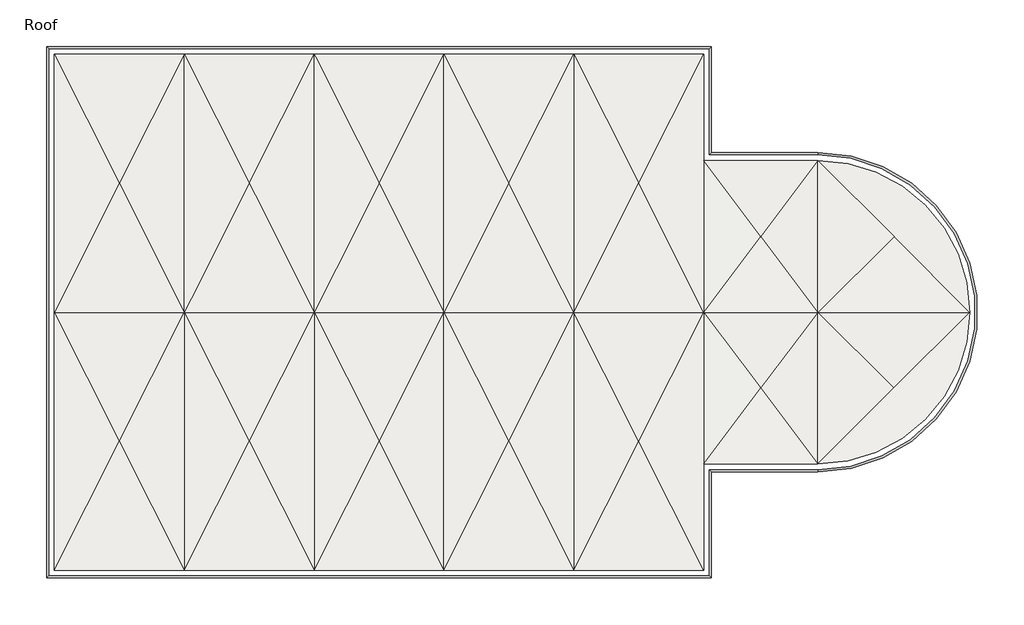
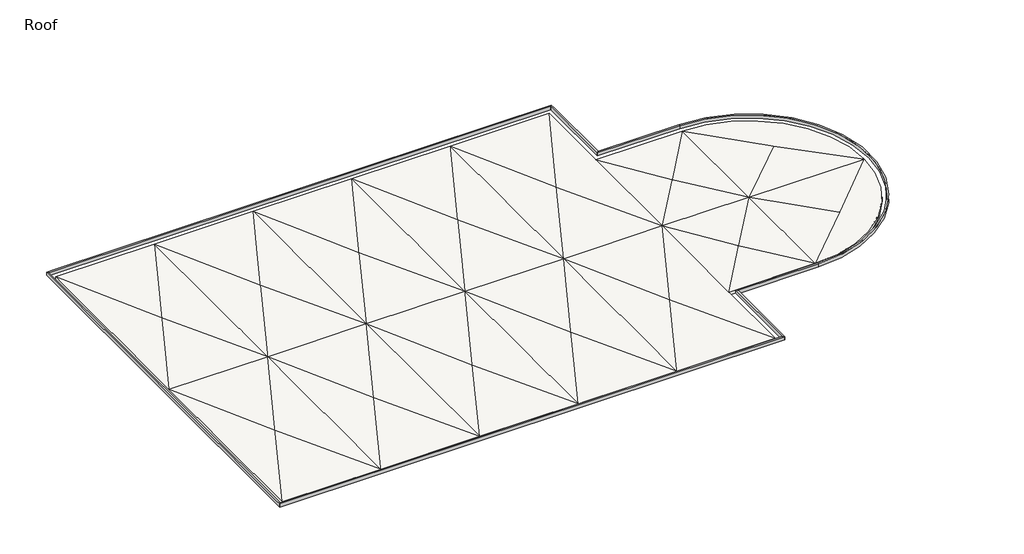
# One storey: 8 proxies, 1 roof.
"""IFC4 building model written with IfcOpenShell, lengths in millimetres."""

import ifcopenshell
import ifcopenshell.guid

model = None  # the IFC model being written
_history = None  # IfcOwnerHistory: only IFC2X3 demands one
_inside = {}  # id of a spatial element -> (the spatial element, [elements in it])
_under = {}  # id of a project, library or spatial element -> (it, [spatial elements below it])
_declared = {}  # id of a project -> (the project, [libraries it declares])
_typed = {}  # id of a type object -> (the type object, [elements of that type])
_made_of = {}  # id of a material, layer set ... -> (it, [elements and type objects made of it])


def new_model(schema):
    """Start an empty IFC model of exactly this schema.

    Asked for "IFC4X3", IfcOpenShell would pick the latest addendum, in which some entities
    have other attributes; the version numbers below select the first issue.
    IFC2X3 requires an IfcOwnerHistory on every rooted entity: one is made here for all.
    """
    global model, _history
    if schema == "IFC4X3":
        model = ifcopenshell.file(schema_version=(4, 3, 0, 0))
    else:
        model = ifcopenshell.file(schema=schema)
    _inside.clear()
    _under.clear()
    _declared.clear()
    _typed.clear()
    _made_of.clear()
    _history = None
    if model.schema == "IFC2X3":
        org = make("IfcOrganization", Name="unknown")
        user = make(
            "IfcPersonAndOrganization",
            ThePerson=make("IfcPerson", FamilyName="unknown"),
            TheOrganization=org,
        )
        app = make(
            "IfcApplication",
            ApplicationDeveloper=org,
            Version="unknown",
            ApplicationFullName="unknown",
            ApplicationIdentifier="unknown",
        )
        _history = make(
            "IfcOwnerHistory",
            OwningUser=user,
            OwningApplication=app,
            ChangeAction="ADDED",
            CreationDate=0,
        )
    return model


def make(cls, **values):
    """One entity of the class cls with the attributes given. An attribute that is None is left unset."""
    return model.create_entity(
        cls, **{name: value for name, value in values.items() if value is not None}
    )


def rooted(cls, **values):
    """An entity with a GlobalId (a new one), such as an element, a storey or a relation."""
    return make(cls, GlobalId=ifcopenshell.guid.new(), OwnerHistory=_history, **values)


def si_unit(unit_type, name, prefix=None):
    """IfcSIUnit, for example si_unit("LENGTHUNIT", "METRE", prefix="MILLI")."""
    return make("IfcSIUnit", UnitType=unit_type, Prefix=prefix, Name=name)


def assignment(units):
    """IfcUnitAssignment: the units of a project."""
    return None if units is None else make("IfcUnitAssignment", Units=units)


def point(xyz):
    """IfcCartesianPoint."""
    return None if xyz is None else make("IfcCartesianPoint", Coordinates=xyz)


def direction(xyz):
    """IfcDirection."""
    return None if xyz is None else make("IfcDirection", DirectionRatios=xyz)


def frame(location, z_axis=None, x_axis=None):
    """IfcAxis2Placement3D, a coordinate frame: its origin and axes. An axis left out is left unset."""
    return make(
        "IfcAxis2Placement3D",
        Location=point(location),
        Axis=direction(z_axis),
        RefDirection=direction(x_axis),
    )


def frame_2d(location, x_axis=None):
    """IfcAxis2Placement2D, a coordinate frame in the plane: its origin and x axis."""
    return make(
        "IfcAxis2Placement2D", Location=point(location), RefDirection=direction(x_axis)
    )


def origin():
    """The frame at (0, 0, 0) with its axes left unset."""
    return frame((0.0, 0.0, 0.0))


def place(relative_to, where):
    """IfcLocalPlacement: puts the frame where relative to a parent placement (None: the world)."""
    return make(
        "IfcLocalPlacement", PlacementRelTo=relative_to, RelativePlacement=where
    )


def context(
    kind, dimensions, precision=None, world=None, true_north=None, identifier=None
):
    """IfcGeometricRepresentationContext, for example the 3D "Model" context."""
    return make(
        "IfcGeometricRepresentationContext",
        ContextIdentifier=identifier,
        ContextType=kind,
        CoordinateSpaceDimension=dimensions,
        Precision=precision,
        WorldCoordinateSystem=world,
        TrueNorth=true_north,
    )


def project(units=None, contexts=None):
    """IfcProject with its units and contexts."""
    return rooted(
        "IfcProject",
        Name="project",
        RepresentationContexts=contexts,
        UnitsInContext=assignment(units),
    )


def spatial(cls, under=None, at=None, **own):
    """A site, building, storey or space (cls), placed at a placement, below another one or the project."""
    s = rooted(cls, ObjectPlacement=at, **own)
    if under is not None:
        _under.setdefault(under.id(), (under, []))[1].append(s)
    return s


def polyline(points):
    """IfcPolyline through the points."""
    return make("IfcPolyline", Points=[point(p) for p in points])


def circle_curve(where, radius):
    """IfcCircle in the frame where."""
    return make("IfcCircle", Position=where, Radius=radius)


def trimmed(basis, trim1, trim2, sense, master):
    """IfcTrimmedCurve: the piece of a basis curve between two trims."""
    return make(
        "IfcTrimmedCurve",
        BasisCurve=basis,
        Trim1=trim1,
        Trim2=trim2,
        SenseAgreement=sense,
        MasterRepresentation=master,
    )


def segment(curve, same_sense, transition):
    """IfcCompositeCurveSegment."""
    return make(
        "IfcCompositeCurveSegment",
        Transition=transition,
        SameSense=same_sense,
        ParentCurve=curve,
    )


def composite_curve(segments, self_intersect=None):
    """IfcCompositeCurve: segments joined end to end."""
    return make("IfcCompositeCurve", Segments=segments, SelfIntersect=self_intersect)


def outline(outer, holes=None, kind="AREA"):
    """IfcArbitraryClosedProfileDef: a profile drawn as a closed curve; with holes, ...WithVoids."""
    if holes is None:
        return make("IfcArbitraryClosedProfileDef", ProfileType=kind, OuterCurve=outer)
    return make(
        "IfcArbitraryProfileDefWithVoids",
        ProfileType=kind,
        OuterCurve=outer,
        InnerCurves=holes,
    )


def extrude(swept, where, along, depth):
    """IfcExtrudedAreaSolid: the profile swept, set in the frame where, extruded along a direction by depth."""
    return make(
        "IfcExtrudedAreaSolid",
        SweptArea=swept,
        Position=where,
        ExtrudedDirection=direction(along),
        Depth=depth,
    )


def faces_of(points, faces, orient=None, outer=None):
    """IfcFace entities. A face is a list of loops; a loop is a list of indices into points, from 0.

    orient and outer hold one flag for each loop. By default every Orientation is true, the
    first loop of a face is its IfcFaceOuterBound and the others are IfcFaceBound.
    """
    made = []
    for i, loops in enumerate(faces):
        bounds = []
        for j, loop in enumerate(loops):
            is_outer = j == 0 if outer is None else outer[i][j]
            bounds.append(
                make(
                    "IfcFaceOuterBound" if is_outer else "IfcFaceBound",
                    Bound=make("IfcPolyLoop", Polygon=[points[k] for k in loop]),
                    Orientation=True if orient is None else orient[i][j],
                )
            )
        made.append(make("IfcFace", Bounds=bounds))
    return made


def faceted_brep(points, faces, orient=None, outer=None, voids=None):
    """IfcFacetedBrep: a solid bounded by flat faces; with voids (closed shells), ...WithVoids."""
    shared = [point(p) for p in points]
    hull = make("IfcClosedShell", CfsFaces=faces_of(shared, faces, orient, outer))
    if voids is None:
        return make("IfcFacetedBrep", Outer=hull)
    return make(
        "IfcFacetedBrepWithVoids",
        Outer=hull,
        Voids=[
            make(cls, CfsFaces=faces_of(shared, fs, o, b)) for cls, fs, o, b in voids
        ],
    )


def shape(context_of_items, identifier, shape_type, items):
    """IfcShapeRepresentation: the items that make up one representation, for example the "Body"."""
    return make(
        "IfcShapeRepresentation",
        ContextOfItems=context_of_items,
        RepresentationIdentifier=identifier,
        RepresentationType=shape_type,
        Items=items,
    )


def made_of(thing, what):
    """Note that an element or type object is made of a material, layer set ...; save() writes the relation."""
    if what is not None:
        _made_of.setdefault(what.id(), (what, []))[1].append(thing)
    return thing


def element(
    cls,
    number,
    at=None,
    inside=None,
    cuts=None,
    type_object=None,
    material=None,
    context=None,
    identifier="Body",
    shape_type=None,
    held_by="IfcProductDefinitionShape",
    body=None,
    shapes=None,
    **own,
):
    """One element of the class cls, such as IfcWall. Its Tag is "e" and its number.

    at: its placement. inside: the storey or other place that contains it. cuts: it is an
    opening in that element (IfcRelVoidsElement). A single representation is given by context,
    identifier, shape_type and body (its items); several are given by shapes. held_by: the class
    of the entity that holds the representations. save() writes the other relations.
    """
    e = rooted(cls, Tag="e%d" % number, ObjectPlacement=at, **own)
    if body is not None:
        shapes = [shape(context, identifier, shape_type, body)]
    if shapes is not None:
        e.Representation = make(held_by, Representations=shapes)
    if inside is not None:
        _inside.setdefault(inside.id(), (inside, []))[1].append(e)
    if cuts is not None:
        rooted(
            "IfcRelVoidsElement", RelatingBuildingElement=cuts, RelatedOpeningElement=e
        )
    if type_object is not None:
        _typed.setdefault(type_object.id(), (type_object, []))[1].append(e)
    return made_of(e, material)


def aggregate(whole, parts):
    """IfcRelAggregates: a whole, such as a stair, and the parts it consists of."""
    return rooted("IfcRelAggregates", RelatingObject=whole, RelatedObjects=parts)


def save(model, path):
    """Write the relations noted so far, then the file.

    IfcRelAggregates (storeys below a building ...), IfcRelContainedInSpatialStructure (elements
    in a storey), IfcRelDefinesByType, IfcRelAssociatesMaterial and IfcRelDeclares: one each for
    every whole, place, type object, material and project.
    """
    for whole, parts in _under.values():
        aggregate(whole, parts)
    for where, things in _inside.values():
        rooted(
            "IfcRelContainedInSpatialStructure",
            RelatedElements=things,
            RelatingStructure=where,
        )
    for kind, things in _typed.values():
        rooted("IfcRelDefinesByType", RelatedObjects=things, RelatingType=kind)
    for what, things in _made_of.values():
        rooted("IfcRelAssociatesMaterial", RelatedObjects=things, RelatingMaterial=what)
    for by, libraries in _declared.values():
        rooted("IfcRelDeclares", RelatingContext=by, RelatedDefinitions=libraries)
    model.write(path)


def plane_surface(at):
    """IfcPlane: the flat surface through the origin of the frame at, square to its z axis."""
    return make("IfcPlane", Position=at)


def cylinder_surface(at, radius):
    """IfcCylindricalSurface: all points at the distance radius from the z axis of the frame at."""
    return make("IfcCylindricalSurface", Position=at, Radius=radius)


def spline_surface(u_degree, v_degree, points, u_multiplicities, v_multiplicities, u_knots, v_knots, weights=None):
    """IfcBSplineSurfaceWithKnots; with weights, IfcRationalBSplineSurfaceWithKnots. points: one row for each step in u."""
    own = dict(
        UDegree=u_degree,
        VDegree=v_degree,
        ControlPointsList=[[point(p) for p in row] for row in points],
        SurfaceForm="UNSPECIFIED",
        UClosed=False,
        VClosed=False,
        SelfIntersect=False,
        UMultiplicities=u_multiplicities,
        VMultiplicities=v_multiplicities,
        UKnots=u_knots,
        VKnots=v_knots,
        KnotSpec="UNSPECIFIED",
    )
    if weights is None:
        return make("IfcBSplineSurfaceWithKnots", **own)
    return make("IfcRationalBSplineSurfaceWithKnots", WeightsData=weights, **own)


def advanced_brep(points, edges, surfaces, faces):
    """IfcAdvancedBrep: a solid bounded by faces that lie on surfaces and meet in shared edges.

    An edge is (start, end): straight between two places in points (the first is 0);
    or (start, end, curve); or (start, end, curve, False) where it runs against its curve.
    A face is (place in surfaces, loops), or (place, loops, False) where it looks against
    its surface's normal. A loop lists edges by number (the first is 1), with a minus sign
    where the edge is run from its end to its start. The first loop is the outer one.
    """
    corners = [point(p) for p in points]
    vertices = [make("IfcVertexPoint", VertexGeometry=c) for c in corners]
    made = []
    for start, end, *more in edges:
        made.append(
            make(
                "IfcEdgeCurve",
                EdgeStart=vertices[start],
                EdgeEnd=vertices[end],
                EdgeGeometry=more[0] if more else make("IfcPolyline", Points=[corners[start], corners[end]]),
                SameSense=more[1] if len(more) > 1 else True,
            )
        )
    hull = []
    for where, loops, *sense in faces:
        bounds = []
        for j, loop in enumerate(loops):
            ring = [make("IfcOrientedEdge", EdgeElement=made[abs(k) - 1], Orientation=k > 0) for k in loop]
            bounds.append(
                make(
                    "IfcFaceOuterBound" if j == 0 else "IfcFaceBound",
                    Bound=make("IfcEdgeLoop", EdgeList=ring),
                    Orientation=True,
                )
            )
        hull.append(make("IfcAdvancedFace", Bounds=bounds, FaceSurface=surfaces[where], SameSense=sense[0] if sense else True))
    return make("IfcAdvancedBrep", Outer=make("IfcClosedShell", CfsFaces=hull))


model = new_model("IFC4")

# Units and contexts
model_context = context("Model", 3, world=origin())
ifc_project = project(units=[si_unit("LENGTHUNIT", "METRE", prefix="MILLI")], contexts=[model_context])

# Site, building, storey
site = spatial("IfcSite", under=ifc_project)
building = spatial("IfcBuilding", under=site)
storey = spatial("IfcBuildingStorey", under=building, Name="Roof", Elevation=22555.2)

# Proxies
placement = place(None, origin())
element("IfcBuildingElementProxy", 1, Name="Wall Sweeps", at=placement, inside=storey, context=model_context, shape_type="SweptSolid", body=[
    extrude(outline(polyline([(10130.387245, -6670.8262891), (10222.462245, -6762.9012891), (-20257.537755, -6762.9012891), (-20165.462755, -6670.8262891), (10130.387245, -6670.8262891)])), frame((0.0, 0.0, 22758.4), z_axis=(0.0, 0.0, 1.0), x_axis=(1.0, 0.0, 0.0)), (0.0, 0.0, 1.0), 203.2),
])
element("IfcBuildingElementProxy", 2, Name="Wall Sweeps", at=placement, inside=storey, context=model_context, shape_type="Brep", body=[
    faceted_brep([(-20257.537755, -6762.9012891, 22961.6), (-20257.537755, -6762.9012891, 22758.4), (-20165.462755, -6670.8262891, 22758.4), (-20165.462755, -6670.8262891, 22961.6), (-20257.537755, 17621.0987109, 22961.6), (-20165.462755, 17529.0237109, 22961.6), (-20165.462755, 17529.0237109, 22758.4), (-20257.537755, 17621.0987109, 22758.4), (-20257.537755, -6410.4762891, 22961.6), (-20257.537755, -6410.4762891, 22758.4), (-20165.462755, -6410.4762891, 22758.4), (-20165.462755, -6410.4762891, 22961.6)], [[[0, 1, 2, 3]], [[4, 5, 6, 7]], [[1, 0, 8, 4, 7, 9]], [[2, 1, 9, 7, 6, 10]], [[3, 2, 10, 6, 5, 11]], [[0, 3, 11, 5, 4, 8]]]),
])
element("IfcBuildingElementProxy", 3, Name="Wall Sweeps", at=placement, inside=storey, context=model_context, shape_type="Brep", body=[
    faceted_brep([(-20257.537755, 17621.0987109, 22961.6), (-20257.537755, 17621.0987109, 22758.4), (-20165.462755, 17529.0237109, 22758.4), (-20165.462755, 17529.0237109, 22961.6), (10222.462245, 17621.0987109, 22961.6), (10130.387245, 17529.0237109, 22961.6), (10130.387245, 17529.0237109, 22758.4), (10222.462245, 17621.0987109, 22758.4), (-19905.112755, 17621.0987109, 22961.6), (-19905.112755, 17621.0987109, 22758.4), (-19905.112755, 17529.0237109, 22758.4), (-19905.112755, 17529.0237109, 22961.6)], [[[0, 1, 2, 3]], [[4, 5, 6, 7]], [[1, 0, 8, 4, 7, 9]], [[2, 1, 9, 7, 6, 10]], [[3, 2, 10, 6, 5, 11]], [[0, 3, 11, 5, 4, 8]]]),
])
element("IfcBuildingElementProxy", 4, Name="Wall Sweeps", at=placement, inside=storey, context=model_context, shape_type="Brep", body=[
    faceted_brep([(10222.462245, 17621.0987109, 22961.6), (10222.462245, 17621.0987109, 22758.4), (10130.387245, 17529.0237109, 22758.4), (10130.387245, 17529.0237109, 22961.6), (10222.462245, 12744.2987109, 22961.6), (10130.387245, 12652.2237109, 22961.6), (10130.387245, 12652.2237109, 22758.4), (10222.462245, 12744.2987109, 22758.4), (10222.462245, 17268.6737109, 22961.6), (10222.462245, 17268.6737109, 22758.4), (10130.387245, 17268.6737109, 22758.4), (10130.387245, 17268.6737109, 22961.6)], [[[0, 1, 2, 3]], [[4, 5, 6, 7]], [[1, 0, 8, 4, 7, 9]], [[2, 1, 9, 7, 6, 10]], [[3, 2, 10, 6, 5, 11]], [[0, 3, 11, 5, 4, 8]]]),
])
element("IfcBuildingElementProxy", 5, Name="Wall Sweeps", at=placement, inside=storey, context=model_context, shape_type="SweptSolid", body=[
    extrude(outline(polyline([(10130.387245, 12652.2237109), (10222.462245, 12744.2987109), (15099.262245, 12744.2987109), (15099.262245, 12652.2237109), (10130.387245, 12652.2237109)])), frame((0.0, 0.0, 22758.4), z_axis=(0.0, 0.0, 1.0), x_axis=(1.0, 0.0, 0.0)), (0.0, 0.0, 1.0), 203.2),
])
element("IfcBuildingElementProxy", 6, Name="Wall Sweeps", at=placement, inside=storey, context=model_context, shape_type="Brep", body=[
    faceted_brep([(10222.462245, -6762.9012891, 22961.6), (10130.387245, -6670.8262891, 22961.6), (10130.387245, -6670.8262891, 22758.4), (10222.462245, -6762.9012891, 22758.4), (10222.462245, -1886.1012891, 22961.6), (10222.462245, -1886.1012891, 22758.4), (10130.387245, -1794.0262891, 22758.4), (10130.387245, -1794.0262891, 22961.6), (10222.462245, -6410.4762891, 22758.4), (10222.462245, -6410.4762891, 22961.6), (10130.387245, -6410.4762891, 22758.4), (10130.387245, -6410.4762891, 22961.6)], [[[0, 1, 2, 3]], [[4, 5, 6, 7]], [[0, 3, 8, 5, 4, 9]], [[3, 2, 10, 6, 5, 8]], [[2, 1, 11, 7, 6, 10]], [[1, 0, 9, 4, 7, 11]]]),
])
element("IfcBuildingElementProxy", 7, Name="Wall Sweeps", at=placement, inside=storey, context=model_context, shape_type="SweptSolid", body=[
    extrude(outline(polyline([(10222.462245, -1886.1012891), (10130.387245, -1794.0262891), (15099.262245, -1794.0262891), (15099.262245, -1886.1012891), (10222.462245, -1886.1012891)])), frame((0.0, 0.0, 22758.4), z_axis=(0.0, 0.0, 1.0), x_axis=(1.0, 0.0, 0.0)), (0.0, 0.0, 1.0), 203.2),
])
element("IfcBuildingElementProxy", 8, Name="Wall Sweeps", at=placement, inside=storey, context=model_context, shape_type="SweptSolid", body=[
    extrude(outline(composite_curve([segment(trimmed(circle_curve(frame_2d((15099.262245, 5429.0987109)), 7223.125), [point((15099.262245, -1794.0262891))], [point((15099.262245, 12652.2237109))], True, "CARTESIAN"), True, "CONTINUOUS"), segment(polyline([(15099.262245, 12652.2237109), (15099.262245, 12744.2987109)]), True, "CONTINUOUS"), segment(trimmed(circle_curve(frame_2d((15099.262245, 5429.0987109)), 7315.2), [point((15099.262245, 12744.2987109))], [point((15099.262245, -1886.1012891))], False, "CARTESIAN"), True, "CONTINUOUS"), segment(polyline([(15099.262245, -1886.1012891), (15099.262245, -1794.0262891)]), True, "CONTINUOUS")], self_intersect=False)), frame((0.0, 0.0, 22758.4), z_axis=(0.0, 0.0, 1.0), x_axis=(1.0, 0.0, 0.0)), (0.0, 0.0, 1.0), 203.2),
])

# Roof
element("IfcRoof", 9, ObjectType="4\" Insulated Concrete Roof", at=placement, inside=storey, context=model_context, shape_type="AdvancedBrep", body=[
    advanced_brep(
    [(-19905.112755, 17268.6737109, 22555.2), (9870.037245, 17268.6737109, 22555.2), (9870.037245, 12391.8737109, 22555.2), (15099.262245, 12391.8737109, 22555.2), (15099.262245, -1533.6762891, 22555.2), (9870.037245, -1533.6762891, 22555.2), (9870.037245, -6410.4762891, 22555.2), (-19905.112755, -6410.4762891, 22555.2), (9870.037245, 17268.6737109, 22764.75), (-19905.112755, 17268.6737109, 22764.75), (-13950.082755, 17268.6737109, 22764.75), (-7995.052755, 17268.6737109, 22764.75), (-2040.022755, 17268.6737109, 22764.75), (3915.007245, 17268.6737109, 22764.75), (-19905.112755, -6410.4762891, 22764.75), (-19905.112755, 5429.0987109, 22764.75), (9870.037245, -6410.4762891, 22764.75), (3915.007245, -6410.4762891, 22764.75), (-2040.022755, -6410.4762891, 22764.75), (-7995.052755, -6410.4762891, 22764.75), (-13950.082755, -6410.4762891, 22764.75), (9870.037245, -1533.6762891, 22764.75), (15099.262245, -1533.6762891, 22764.75), (15099.262245, 12391.8737109, 22764.75), (22062.037245, 5429.0987109, 22764.75), (9870.037245, 12391.8737109, 22764.75), (12470.362245, 1961.9987109, 22688.55), (18580.649745, 1947.7112109, 22688.55), (-16927.597755, 11348.8862109, 22688.55), (12484.649745, 8910.4862109, 22688.55), (15099.262245, 5429.0987109, 22764.75), (18594.9668056, 8896.1691503, 22688.55), (-16927.597755, -490.6887891, 22688.55), (9870.037245, 5429.0987109, 22764.75), (6892.522245, -490.6887891, 22688.55), (6892.522245, 11348.8862109, 22688.55), (-10972.567755, -490.6887891, 22688.55), (-13950.082755, 5429.0987109, 22764.75), (-10972.567755, 11348.8862109, 22688.55), (-5017.537755, -490.6887891, 22688.55), (-7995.052755, 5429.0987109, 22764.75), (-5017.537755, 11348.8862109, 22688.55), (937.492245, -490.6887891, 22688.55), (-2040.022755, 5429.0987109, 22764.75), (937.492245, 11348.8862109, 22688.55), (3915.007245, 5429.0987109, 22764.75)],
    [
        (0, 1),
        (1, 2),
        (2, 3),
        (3, 4, circle_curve(frame((15099.262245, 5429.0987109, 22555.2), z_axis=(0.0, 0.0, -1.0), x_axis=(1.0, 0.0, 0.0)), 6962.775)),
        (4, 5),
        (5, 6),
        (6, 7),
        (7, 0),
        (8, 1),
        (0, 9),
        (9, 10),
        (10, 11),
        (11, 12),
        (12, 13),
        (13, 8),
        (7, 14),
        (14, 15),
        (15, 9),
        (6, 16),
        (16, 17),
        (17, 18),
        (18, 19),
        (19, 20),
        (20, 14),
        (5, 21),
        (21, 16),
        (4, 22),
        (22, 21),
        (3, 23),
        (23, 24, circle_curve(frame((15099.262245, 5429.0987109, 22764.75), z_axis=(0.0, 0.0, -1.0), x_axis=(1.0, 0.0, 0.0)), 6962.775)),
        (24, 22, circle_curve(frame((15099.262245, 5429.0987109, 22764.75), z_axis=(0.0, 0.0, -1.0), x_axis=(1.0, 0.0, 0.0)), 6962.775)),
        (2, 25),
        (25, 23),
        (8, 25),
        (22, 26),
        (26, 21),
        (24, 27),
        (27, 22),
        (15, 28),
        (28, 9),
        (25, 29),
        (29, 23),
        (23, 30),
        (30, 31),
        (31, 23),
        (20, 32),
        (32, 14),
        (21, 33),
        (33, 34),
        (34, 16),
        (8, 35),
        (35, 33),
        (33, 25),
        (19, 36),
        (36, 20),
        (10, 37),
        (37, 38),
        (38, 10),
        (18, 39),
        (39, 19),
        (11, 40),
        (40, 41),
        (41, 11),
        (17, 42),
        (42, 18),
        (12, 43),
        (43, 44),
        (44, 12),
        (15, 37),
        (37, 28),
        (28, 10),
        (37, 40),
        (40, 38),
        (11, 38),
        (40, 43),
        (43, 41),
        (12, 41),
        (13, 44),
        (44, 45),
        (45, 13),
        (43, 45),
        (35, 45),
        (45, 33),
        (35, 13),
        (20, 37),
        (37, 32),
        (32, 15),
        (36, 37),
        (19, 40),
        (40, 36),
        (39, 40),
        (18, 43),
        (43, 39),
        (17, 45),
        (45, 42),
        (42, 43),
        (34, 17),
        (45, 34),
        (33, 30),
        (30, 29),
        (29, 33),
        (31, 24),
        (30, 24),
        (27, 30),
        (30, 22),
        (26, 33),
        (26, 30),
    ],
    [
        plane_surface(frame((-19905.112755, 17268.6737109, 22555.2), z_axis=(0.0, 0.0, -1.0), x_axis=(1.0, 0.0, 0.0))),
        plane_surface(frame((9870.037245, 17268.6737109, 22555.2), z_axis=(0.0, 1.0, 0.0), x_axis=(-1.0, 0.0, 0.0))),
        plane_surface(frame((-19905.112755, 17268.6737109, 22555.2), z_axis=(-1.0, 0.0, 0.0), x_axis=(0.0, -1.0, 0.0))),
        plane_surface(frame((-19905.112755, -6410.4762891, 22555.2), z_axis=(0.0, -1.0, 0.0), x_axis=(1.0, 0.0, 0.0))),
        plane_surface(frame((9870.037245, -6410.4762891, 22555.2), z_axis=(1.0, 0.0, 0.0), x_axis=(0.0, 1.0, 0.0))),
        plane_surface(frame((9870.037245, -1533.6762891, 22555.2), z_axis=(0.0, -1.0, 0.0), x_axis=(1.0, 0.0, 0.0))),
        cylinder_surface(frame((15099.262245, 5429.0987109, 22555.2), z_axis=(0.0, 0.0, 1.0), x_axis=(1.0, 0.0, 0.0)), 6962.775),
        plane_surface(frame((15099.262245, 12391.8737109, 22555.2), z_axis=(0.0, 1.0, 0.0), x_axis=(-1.0, 0.0, 0.0))),
        plane_surface(frame((9870.037245, 12391.8737109, 22555.2), z_axis=(1.0, 0.0, 0.0), x_axis=(0.0, 1.0, 0.0))),
        plane_surface(frame((12479.887245, -368.4512891, 22739.35), z_axis=(0.0, 0.021793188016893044, 0.9997625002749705), x_axis=(1.0, 0.0, 0.0))),
        spline_surface(2, 1, [[(15099.262245, -1533.6762891, 22764.75), (18580.649745, 1947.7112109, 22688.55)], [(22062.037245, -1533.6762890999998, 22764.75), (18580.649745, 1947.7112109, 22688.55)], [(22062.037245, 5429.0987109, 22764.75), (18580.649745, 1947.7112109, 22688.55)]], [3, 3], [2, 2], [0.0, 1.0], [0.0, 1.0], weights=[[1.0, 1.0], [0.7071067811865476, 0.7071067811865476], [1.0, 1.0]]),
        plane_surface(frame((-18912.607755, 11348.8862109, 22739.35), z_axis=(0.025583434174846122, 0.0, 0.9996726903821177), x_axis=(0.0, -1.0, 0.0))),
        plane_surface(frame((12484.649745, 11231.4112109, 22739.35), z_axis=(0.0, -0.021882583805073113, 0.9997605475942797), x_axis=(-1.0, 0.0, 0.0))),
        plane_surface(frame((16264.4970986, 8905.7138574, 22739.35), z_axis=(0.02179300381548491, 0.0, 0.999762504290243), x_axis=(0.0, -1.0, 0.0))),
        plane_surface(frame((-16927.597755, -4437.2137891, 22739.35), z_axis=(0.0, 0.012871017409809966, 0.9999171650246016), x_axis=(1.0, 0.0, 0.0))),
        plane_surface(frame((8877.532245, -490.6887891, 22739.35), z_axis=(-0.02558343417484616, 0.0, 0.9996726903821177), x_axis=(0.0, 1.0, 0.0))),
        plane_surface(frame((8877.532245, 11348.8862109, 22739.35), z_axis=(-0.02558343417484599, 0.0, 0.9996726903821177), x_axis=(0.0, 1.0, 0.0))),
        plane_surface(frame((-10972.567755, -4437.2137891, 22739.35), z_axis=(0.0, 0.012871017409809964, 0.9999171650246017), x_axis=(1.0, 0.0, 0.0))),
        plane_surface(frame((-12957.577755, 11348.8862109, 22739.35), z_axis=(0.02558343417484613, 0.0, 0.9996726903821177), x_axis=(0.0, -1.0, 0.0))),
        plane_surface(frame((-5017.537755, -4437.2137891, 22739.35), z_axis=(0.0, 0.01287101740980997, 0.9999171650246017), x_axis=(1.0, 0.0, 0.0))),
        plane_surface(frame((-7002.547755, 11348.8862109, 22739.35), z_axis=(0.02558343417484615, 0.0, 0.9996726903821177), x_axis=(0.0, -1.0, 0.0))),
        plane_surface(frame((937.492245, -4437.2137891, 22739.35), z_axis=(0.0, 0.012871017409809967, 0.9999171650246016), x_axis=(1.0, 0.0, 0.0))),
        plane_surface(frame((-1047.517755, 11348.8862109, 22739.35), z_axis=(0.025583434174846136, 0.0, 0.9996726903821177), x_axis=(0.0, -1.0, 0.0))),
        plane_surface(frame((-16927.597755, 7402.3612109, 22739.35), z_axis=(0.0, 0.012871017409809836, 0.9999171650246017), x_axis=(1.0, 0.0, 0.0))),
        plane_surface(frame((-16927.597755, 15295.4112109, 22739.35), z_axis=(0.0, -0.012871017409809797, 0.9999171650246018), x_axis=(0.44931001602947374, -0.8933019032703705, -0.01149865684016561))),
        plane_surface(frame((-14942.587755, 11348.8862109, 22739.35), z_axis=(-0.025583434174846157, 0.0, 0.9996726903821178), x_axis=(-0.4493100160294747, -0.8933019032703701, -0.011498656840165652))),
        plane_surface(frame((-10972.567755, 7402.3612109, 22739.35), z_axis=(0.0, 0.012871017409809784, 0.9999171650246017), x_axis=(1.0, 0.0, 0.0))),
        plane_surface(frame((-8987.557755, 11348.8862109, 22739.35), z_axis=(-0.02558343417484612, 0.0, 0.9996726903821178), x_axis=(-0.4493100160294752, -0.8933019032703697, -0.011498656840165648))),
        plane_surface(frame((-10972.567755, 15295.4112109, 22739.35), z_axis=(0.0, -0.012871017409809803, 0.9999171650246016), x_axis=(0.44931001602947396, -0.8933019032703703, -0.011498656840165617))),
        plane_surface(frame((-5017.537755, 7402.3612109, 22739.35), z_axis=(0.0, 0.012871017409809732, 0.9999171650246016), x_axis=(1.0, 0.0, 0.0))),
        plane_surface(frame((-3032.527755, 11348.8862109, 22739.35), z_axis=(-0.025583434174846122, 0.0, 0.9996726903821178), x_axis=(-0.4493100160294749, -0.8933019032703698, -0.011498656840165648))),
        plane_surface(frame((-5017.537755, 15295.4112109, 22739.35), z_axis=(0.0, -0.012871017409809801, 0.9999171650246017), x_axis=(0.4493100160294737, -0.8933019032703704, -0.011498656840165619))),
        plane_surface(frame((2922.502245, 11348.8862109, 22739.35), z_axis=(-0.025583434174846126, 0.0, 0.9996726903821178), x_axis=(-0.4493100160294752, -0.8933019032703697, -0.011498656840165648))),
        plane_surface(frame((937.492245, 15295.4112109, 22739.35), z_axis=(0.0, -0.012871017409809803, 0.9999171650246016), x_axis=(0.44931001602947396, -0.8933019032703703, -0.011498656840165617))),
        plane_surface(frame((937.492245, 7402.3612109, 22739.35), z_axis=(0.0, 0.01287101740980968, 0.9999171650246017), x_axis=(1.0, 0.0, 0.0))),
        plane_surface(frame((6892.522245, 7402.3612109, 22739.35), z_axis=(0.0, 0.012871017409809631, 0.9999171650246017), x_axis=(-0.44931001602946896, 0.8933019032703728, -0.011498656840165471))),
        plane_surface(frame((4907.512245, 11348.8862109, 22739.35), z_axis=(0.02558343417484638, 0.0, 0.9996726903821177), x_axis=(0.0, -1.0, 0.0))),
        plane_surface(frame((6892.522245, 15295.4112109, 22739.35), z_axis=(0.0, -0.012871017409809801, 0.9999171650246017), x_axis=(-1.0, 0.0, 0.0))),
        plane_surface(frame((-14942.587755, -490.6887891, 22739.35), z_axis=(-0.025583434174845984, 0.0, 0.9996726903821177), x_axis=(0.0, 1.0, 0.0))),
        plane_surface(frame((-18912.607755, -490.6887891, 22739.35), z_axis=(0.02558343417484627, 0.0, 0.9996726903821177), x_axis=(0.44931001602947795, 0.8933019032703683, -0.011498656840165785))),
        plane_surface(frame((-16927.597755, 3455.8362109, 22739.35), z_axis=(0.0, -0.012871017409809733, 0.9999171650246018), x_axis=(0.4493100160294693, -0.8933019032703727, -0.011498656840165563))),
        plane_surface(frame((-12957.577755, -490.6887891, 22739.35), z_axis=(0.025583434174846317, 0.0, 0.9996726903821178), x_axis=(0.44931001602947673, 0.893301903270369, -0.01149865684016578))),
        plane_surface(frame((-8987.557755, -490.6887891, 22739.35), z_axis=(-0.025583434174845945, 0.0, 0.9996726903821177), x_axis=(0.0, 1.0, 0.0))),
        plane_surface(frame((-10972.567755, 3455.8362109, 22739.35), z_axis=(0.0, -0.012871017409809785, 0.9999171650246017), x_axis=(0.4493100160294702, -0.8933019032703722, -0.011498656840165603))),
        plane_surface(frame((-7002.547755, -490.6887891, 22739.35), z_axis=(0.025583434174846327, 0.0, 0.9996726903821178), x_axis=(0.4493100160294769, 0.8933019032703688, -0.011498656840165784))),
        plane_surface(frame((-3032.527755, -490.6887891, 22739.35), z_axis=(-0.025583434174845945, 0.0, 0.9996726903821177), x_axis=(0.0, 1.0, 0.0))),
        plane_surface(frame((-5017.537755, 3455.8362109, 22739.35), z_axis=(0.0, -0.012871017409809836, 0.9999171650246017), x_axis=(0.44931001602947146, -0.8933019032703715, -0.011498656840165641))),
        plane_surface(frame((2922.502245, -490.6887891, 22739.35), z_axis=(-0.02558343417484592, 0.0, 0.9996726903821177), x_axis=(0.0, 1.0, 0.0))),
        plane_surface(frame((-1047.517755, -490.6887891, 22739.35), z_axis=(0.025583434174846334, 0.0, 0.9996726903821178), x_axis=(0.449310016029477, 0.8933019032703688, -0.011498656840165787))),
        plane_surface(frame((937.492245, 3455.8362109, 22739.35), z_axis=(0.0, -0.012871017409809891, 0.9999171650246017), x_axis=(0.4493100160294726, -0.893301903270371, -0.011498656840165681))),
        plane_surface(frame((6892.522245, -4437.2137891, 22739.35), z_axis=(0.0, 0.01287101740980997, 0.9999171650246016), x_axis=(-0.449310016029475, 0.8933019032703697, -0.011498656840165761))),
        plane_surface(frame((6892.522245, 3455.8362109, 22739.35), z_axis=(0.0, -0.01287101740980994, 0.9999171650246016), x_axis=(-1.0, 0.0, 0.0))),
        plane_surface(frame((4907.512245, -490.6887891, 22739.35), z_axis=(0.02558343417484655, 0.0, 0.9996726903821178), x_axis=(0.4493100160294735, 0.8933019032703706, -0.011498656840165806))),
        plane_surface(frame((12484.649745, 6589.5612109, 22739.35), z_axis=(0.0, 0.021882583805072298, 0.9997605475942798), x_axis=(1.0, 0.0, 0.0))),
        plane_surface(frame((14227.724745, 8910.4862109, 22739.35), z_axis=(-0.02913152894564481, 0.0, 0.9995755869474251), x_axis=(-0.6004329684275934, -0.7994836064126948, -0.017498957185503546))),
        plane_surface(frame((10741.574745, 8910.4862109, 22739.35), z_axis=(0.02913152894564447, 0.0, 0.999575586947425), x_axis=(0.0, -1.0, 0.0))),
        spline_surface(2, 1, [[(22062.037245, 5429.0987109, 22764.75), (18594.9668056, 8896.1691503, 22688.55)], [(22062.037245, 12391.8737109, 22764.75), (18594.9668056, 8896.1691503, 22688.55)], [(15099.262245, 12391.8737109, 22764.75), (18594.9668056, 8896.1691503, 22688.55)]], [3, 3], [2, 2], [0.0, 1.0], [0.0, 1.0], weights=[[1.0, 1.0], [0.7071067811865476, 0.7071067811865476], [1.0, 1.0]]),
        plane_surface(frame((18585.4220986, 6584.7888574, 22739.35), z_axis=(0.0, 0.02197290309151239, 0.9997585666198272), x_axis=(-0.7070214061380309, 0.7070214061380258, -0.015539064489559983))),
        plane_surface(frame((16259.724745, 1947.7112109, 22739.35), z_axis=(0.021882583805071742, 0.0, 0.9997605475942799), x_axis=(0.7070221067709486, 0.7070221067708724, -0.015475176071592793))),
        plane_surface(frame((18580.649745, 4268.6362109, 22739.35), z_axis=(0.0, -0.021882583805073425, 0.9997605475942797), x_axis=(-1.0, 0.0, 0.0))),
        plane_surface(frame((10736.812245, 1952.4737109, 22739.35), z_axis=(0.029291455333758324, 0.0, 0.9995709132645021), x_axis=(0.5967558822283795, 0.8022322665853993, -0.017487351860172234))),
        plane_surface(frame((12479.887245, 4273.3987109, 22739.35), z_axis=(0.0, -0.021972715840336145, 0.9997585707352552), x_axis=(0.5999072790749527, -0.7998763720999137, -0.017579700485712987))),
        plane_surface(frame((14222.962245, 1952.4737109, 22739.35), z_axis=(-0.028973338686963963, 0.0, 0.9995801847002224), x_axis=(0.0, 1.0, 0.0))),
    ],
    [
        (0, [[1, 2, 3, 4, 5, 6, 7, 8]]),
        (1, [[9, -1, 10, 11, 12, 13, 14, 15]]),
        (2, [[-10, -8, 16, 17, 18]]),
        (3, [[-16, -7, 19, 20, 21, 22, 23, 24]]),
        (4, [[-19, -6, 25, 26]]),
        (5, [[-25, -5, 27, 28]]),
        (6, [[-27, -4, 29, 30, 31]]),
        (7, [[-29, -3, 32, 33]]),
        (8, [[-32, -2, -9, 34]]),
        (9, [[-28, 35, 36]]),
        (10, [[-31, 37, 38]]),
        (11, [[-18, 39, 40]]),
        (12, [[-33, 41, 42]]),
        (13, [[43, 44, 45]]),
        (14, [[-24, 46, 47]]),
        (15, [[-26, 48, 49, 50]]),
        (16, [[-34, 51, 52, 53]]),
        (17, [[-23, 54, 55]]),
        (18, [[56, 57, 58]]),
        (19, [[-22, 59, 60]]),
        (20, [[61, 62, 63]]),
        (21, [[-21, 64, 65]]),
        (22, [[66, 67, 68]]),
        (23, [[69, 70, -39]]),
        (24, [[-40, 71, -11]]),
        (25, [[-71, -70, -56]]),
        (26, [[72, 73, -57]]),
        (27, [[74, -73, -61]]),
        (28, [[-58, -74, -12]]),
        (29, [[75, 76, -62]]),
        (30, [[77, -76, -66]]),
        (31, [[-63, -77, -13]]),
        (32, [[78, 79, 80]]),
        (33, [[-68, -78, -14]]),
        (34, [[81, -79, -67]]),
        (35, [[-52, 82, 83]]),
        (36, [[-80, -82, 84]]),
        (37, [[-15, -84, -51]]),
        (38, [[85, 86, -46]]),
        (39, [[-47, 87, -17]]),
        (40, [[-87, -86, -69]]),
        (41, [[-55, 88, -85]]),
        (42, [[89, 90, -54]]),
        (43, [[-88, -90, -72]]),
        (44, [[-60, 91, -89]]),
        (45, [[92, 93, -59]]),
        (46, [[-91, -93, -75]]),
        (47, [[94, 95, -64]]),
        (48, [[-65, 96, -92]]),
        (49, [[-96, -95, -81]]),
        (50, [[-50, 97, -20]]),
        (51, [[-83, 98, -49]]),
        (52, [[-97, -98, -94]]),
        (53, [[99, 100, 101]]),
        (54, [[-42, -100, -43]]),
        (55, [[-53, -101, -41]]),
        (56, [[-45, 102, -30]]),
        (57, [[-102, -44, 103]]),
        (58, [[-38, 104, 105]]),
        (59, [[-103, -104, -37]]),
        (60, [[-36, 106, -48]]),
        (61, [[-106, 107, -99]]),
        (62, [[-105, -107, -35]]),
    ],
),
])

save(model, "model.ifc")
